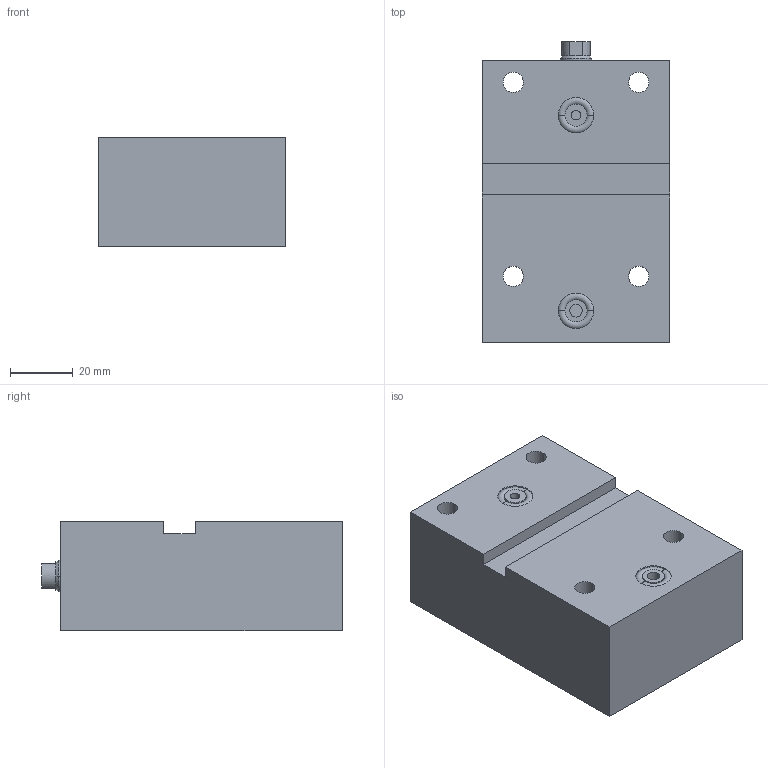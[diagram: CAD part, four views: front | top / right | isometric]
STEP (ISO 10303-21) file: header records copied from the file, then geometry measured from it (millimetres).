
FILE_DESCRIPTION (( 'STEP AP203' ), '1' );
FILE_NAME ('GERMA_Blockzylinder_603-016-050.STEP', '2016-01-04T15:53:46', ( '' ), ( '' ), 'SwSTEP 2.0', 'SolidWorks 2015', '' );
FILE_SCHEMA (( 'CONFIG_CONTROL_DESIGN' ));
Length unit declared in the file: millimetre
Products named in the file (3): GH-600-016_GH-603-016-050; Kolben 60x-016_Kolben DU.16-Hub50-IG; GERMA_Blockzylinder_603-016-050
Assembly tree (2 placements, depth 2):
  GERMA_Blockzylinder_603-016-050
    GH-600-016_GH-603-016-050
    Kolben 60x-016_Kolben DU.16-Hub50-IG
Bounding box: 60 x 96 x 35 mm (x, y, z)
Volume: 175738.9 mm3; surface area: 31925.5 mm2
Topology: 2 solids, 2 shells, 83 faces, 184 edges, 112 vertices
Faces by surface type: cylinder 39, plane 26, cone 14, torus 4
Entity records: 2588 total; most frequent: DIRECTION 449, CARTESIAN_POINT 378, ORIENTED_EDGE 356, AXIS2_PLACEMENT_3D 183, EDGE_CURVE 178, VERTEX_POINT 112, EDGE_LOOP 104, CIRCLE 95
